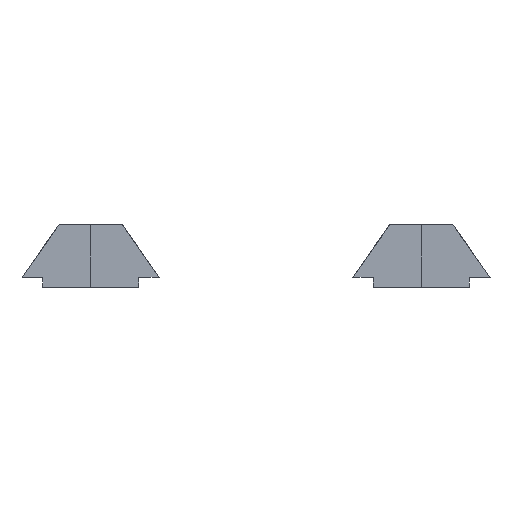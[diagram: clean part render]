
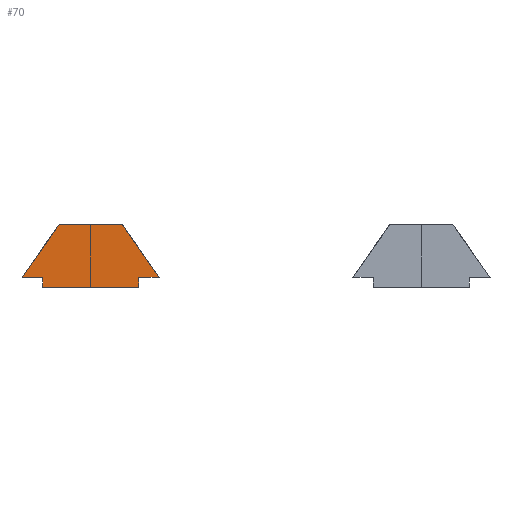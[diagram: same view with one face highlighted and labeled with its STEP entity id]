
A CAD part, left-side view. The second image highlights one B-rep face of the part: STEP entity #70.
In plain terms, the highlighted planar face has unit normal (-1, 0, 0) as drawn and (1, 0, 0) by its records, which use the part's own axes.
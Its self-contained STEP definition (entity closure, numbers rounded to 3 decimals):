
#70=ADVANCED_FACE('',(#109),#1456,.T.);
#109=FACE_OUTER_BOUND('',#149,.T.);
#149=EDGE_LOOP('',(#228,#229,#230,#231,#232,#233,#234,#235));
#228=ORIENTED_EDGE('',*,*,#963,.F.);
#229=ORIENTED_EDGE('',*,*,#970,.F.);
#230=ORIENTED_EDGE('',*,*,#975,.F.);
#231=ORIENTED_EDGE('',*,*,#978,.F.);
#232=ORIENTED_EDGE('',*,*,#981,.F.);
#233=ORIENTED_EDGE('',*,*,#984,.F.);
#234=ORIENTED_EDGE('',*,*,#989,.F.);
#235=ORIENTED_EDGE('',*,*,#991,.F.);
#423=PCURVE('',#1447,#639);
#430=PCURVE('',#1448,#646);
#436=PCURVE('',#1449,#652);
#440=PCURVE('',#1450,#656);
#444=PCURVE('',#1451,#660);
#448=PCURVE('',#1452,#664);
#454=PCURVE('',#1453,#670);
#458=PCURVE('',#1454,#674);
#468=PCURVE('',#1456,#684);
#469=PCURVE('',#1456,#685);
#470=PCURVE('',#1456,#686);
#471=PCURVE('',#1456,#687);
#472=PCURVE('',#1456,#688);
#473=PCURVE('',#1456,#689);
#474=PCURVE('',#1456,#690);
#475=PCURVE('',#1456,#691);
#639=DEFINITIONAL_REPRESENTATION('',(#1074),#2965);
#646=DEFINITIONAL_REPRESENTATION('',(#1086),#2965);
#652=DEFINITIONAL_REPRESENTATION('',(#1097),#2965);
#656=DEFINITIONAL_REPRESENTATION('',(#1104),#2965);
#660=DEFINITIONAL_REPRESENTATION('',(#1111),#2965);
#664=DEFINITIONAL_REPRESENTATION('',(#1118),#2965);
#670=DEFINITIONAL_REPRESENTATION('',(#1127),#2965);
#674=DEFINITIONAL_REPRESENTATION('',(#1133),#2965);
#684=DEFINITIONAL_REPRESENTATION('',(#1144),#2965);
#685=DEFINITIONAL_REPRESENTATION('',(#1145),#2965);
#686=DEFINITIONAL_REPRESENTATION('',(#1146),#2965);
#687=DEFINITIONAL_REPRESENTATION('',(#1147),#2965);
#688=DEFINITIONAL_REPRESENTATION('',(#1148),#2965);
#689=DEFINITIONAL_REPRESENTATION('',(#1149),#2965);
#690=DEFINITIONAL_REPRESENTATION('',(#1150),#2965);
#691=DEFINITIONAL_REPRESENTATION('',(#1151),#2965);
#855=SURFACE_CURVE('',#1073,(#423,#468),.PCURVE_S1.);
#862=SURFACE_CURVE('',#1085,(#430,#469),.PCURVE_S1.);
#867=SURFACE_CURVE('',#1096,(#436,#470),.PCURVE_S1.);
#870=SURFACE_CURVE('',#1103,(#440,#471),.PCURVE_S1.);
#873=SURFACE_CURVE('',#1110,(#444,#472),.PCURVE_S1.);
#876=SURFACE_CURVE('',#1117,(#448,#473),.PCURVE_S1.);
#881=SURFACE_CURVE('',#1126,(#454,#474),.PCURVE_S1.);
#883=SURFACE_CURVE('',#1132,(#458,#475),.PCURVE_S1.);
#963=EDGE_CURVE('',#1371,#1372,#855,.T.);
#970=EDGE_CURVE('',#1374,#1371,#862,.T.);
#975=EDGE_CURVE('',#1376,#1374,#867,.T.);
#978=EDGE_CURVE('',#1378,#1376,#870,.T.);
#981=EDGE_CURVE('',#1380,#1378,#873,.T.);
#984=EDGE_CURVE('',#1382,#1380,#876,.T.);
#989=EDGE_CURVE('',#1384,#1382,#881,.T.);
#991=EDGE_CURVE('',#1372,#1384,#883,.T.);
#1073=B_SPLINE_CURVE_WITH_KNOTS('',1,(#1701,#1702),.UNSPECIFIED.,.F.,.F.,
(2,2),(0.,3.906),.UNSPECIFIED.);
#1074=B_SPLINE_CURVE_WITH_KNOTS('',1,(#1703,#1704),.UNSPECIFIED.,.F.,.F.,
(2,2),(0.,3.906),.UNSPECIFIED.);
#1085=B_SPLINE_CURVE_WITH_KNOTS('',1,(#1741,#1742),.UNSPECIFIED.,.F.,.F.,
(2,2),(-3.819,0.),.UNSPECIFIED.);
#1086=B_SPLINE_CURVE_WITH_KNOTS('',1,(#1743,#1744),.UNSPECIFIED.,.F.,.F.,
(2,2),(-3.819,0.),.UNSPECIFIED.);
#1096=B_SPLINE_CURVE_WITH_KNOTS('',1,(#1793,#1794),.UNSPECIFIED.,.F.,.F.,
(2,2),(-7.725,-3.819),.UNSPECIFIED.);
#1097=B_SPLINE_CURVE_WITH_KNOTS('',1,(#1795,#1796),.UNSPECIFIED.,.F.,.F.,
(2,2),(-7.725,-3.819),.UNSPECIFIED.);
#1103=B_SPLINE_CURVE_WITH_KNOTS('',1,(#1807,#1808),.UNSPECIFIED.,.F.,.F.,
(2,2),(-8.975,-7.725),.UNSPECIFIED.);
#1104=B_SPLINE_CURVE_WITH_KNOTS('',1,(#1809,#1810),.UNSPECIFIED.,.F.,.F.,
(2,2),(-8.975,-7.725),.UNSPECIFIED.);
#1110=B_SPLINE_CURVE_WITH_KNOTS('',1,(#1821,#1822),.UNSPECIFIED.,.F.,.F.,
(2,2),(-9.575,-8.975),.UNSPECIFIED.);
#1111=B_SPLINE_CURVE_WITH_KNOTS('',1,(#1823,#1824),.UNSPECIFIED.,.F.,.F.,
(2,2),(-9.575,-8.975),.UNSPECIFIED.);
#1117=B_SPLINE_CURVE_WITH_KNOTS('',1,(#1835,#1836),.UNSPECIFIED.,.F.,.F.,
(2,2),(-15.375,-9.575),.UNSPECIFIED.);
#1118=B_SPLINE_CURVE_WITH_KNOTS('',1,(#1837,#1838),.UNSPECIFIED.,.F.,.F.,
(2,2),(-15.375,-9.575),.UNSPECIFIED.);
#1126=B_SPLINE_CURVE_WITH_KNOTS('',1,(#1909,#1910),.UNSPECIFIED.,.F.,.F.,
(2,2),(-15.975,-15.375),.UNSPECIFIED.);
#1127=B_SPLINE_CURVE_WITH_KNOTS('',1,(#1911,#1912),.UNSPECIFIED.,.F.,.F.,
(2,2),(-15.975,-15.375),.UNSPECIFIED.);
#1132=B_SPLINE_CURVE_WITH_KNOTS('',1,(#1921,#1922),.UNSPECIFIED.,.F.,.F.,
(2,2),(-17.225,-15.975),.UNSPECIFIED.);
#1133=B_SPLINE_CURVE_WITH_KNOTS('',1,(#1923,#1924),.UNSPECIFIED.,.F.,.F.,
(2,2),(-17.225,-15.975),.UNSPECIFIED.);
#1144=B_SPLINE_CURVE_WITH_KNOTS('',1,(#1945,#1946),.UNSPECIFIED.,.F.,.F.,
(2,2),(0.,3.906),.UNSPECIFIED.);
#1145=B_SPLINE_CURVE_WITH_KNOTS('',1,(#1947,#1948),.UNSPECIFIED.,.F.,.F.,
(2,2),(-3.819,0.),.UNSPECIFIED.);
#1146=B_SPLINE_CURVE_WITH_KNOTS('',1,(#1949,#1950),.UNSPECIFIED.,.F.,.F.,
(2,2),(-7.725,-3.819),.UNSPECIFIED.);
#1147=B_SPLINE_CURVE_WITH_KNOTS('',1,(#1951,#1952),.UNSPECIFIED.,.F.,.F.,
(2,2),(-8.975,-7.725),.UNSPECIFIED.);
#1148=B_SPLINE_CURVE_WITH_KNOTS('',1,(#1953,#1954),.UNSPECIFIED.,.F.,.F.,
(2,2),(-9.575,-8.975),.UNSPECIFIED.);
#1149=B_SPLINE_CURVE_WITH_KNOTS('',1,(#1955,#1956),.UNSPECIFIED.,.F.,.F.,
(2,2),(-15.375,-9.575),.UNSPECIFIED.);
#1150=B_SPLINE_CURVE_WITH_KNOTS('',1,(#1957,#1958),.UNSPECIFIED.,.F.,.F.,
(2,2),(-15.975,-15.375),.UNSPECIFIED.);
#1151=B_SPLINE_CURVE_WITH_KNOTS('',1,(#1959,#1960),.UNSPECIFIED.,.F.,.F.,
(2,2),(-17.225,-15.975),.UNSPECIFIED.);
#1371=VERTEX_POINT('',#1641);
#1372=VERTEX_POINT('',#1642);
#1374=VERTEX_POINT('',#1644);
#1376=VERTEX_POINT('',#1646);
#1378=VERTEX_POINT('',#1648);
#1380=VERTEX_POINT('',#1650);
#1382=VERTEX_POINT('',#1652);
#1384=VERTEX_POINT('',#1654);
#1447=PLANE('',#1518);
#1448=PLANE('',#1519);
#1449=PLANE('',#1520);
#1450=PLANE('',#1521);
#1451=PLANE('',#1522);
#1452=PLANE('',#1523);
#1453=PLANE('',#1524);
#1454=PLANE('',#1525);
#1456=PLANE('',#1527);
#1518=AXIS2_PLACEMENT_3D('',#1593,#1554,$);
#1519=AXIS2_PLACEMENT_3D('',#1594,#1555,$);
#1520=AXIS2_PLACEMENT_3D('',#1595,#1556,$);
#1521=AXIS2_PLACEMENT_3D('',#1596,#1557,$);
#1522=AXIS2_PLACEMENT_3D('',#1597,#1558,$);
#1523=AXIS2_PLACEMENT_3D('',#1598,#1559,$);
#1524=AXIS2_PLACEMENT_3D('',#1599,#1560,$);
#1525=AXIS2_PLACEMENT_3D('',#1600,#1561,$);
#1527=AXIS2_PLACEMENT_3D('',#1638,#1563,$);
#1554=DIRECTION('',(0.,-0.819,-0.574));
#1555=DIRECTION('',(0.,0.,-1.));
#1556=DIRECTION('',(0.,0.819,-0.574));
#1557=DIRECTION('',(0.,0.,1.));
#1558=DIRECTION('',(0.,1.,0.));
#1559=DIRECTION('',(0.,0.,1.));
#1560=DIRECTION('',(0.,-1.,0.));
#1561=DIRECTION('',(0.,0.,1.));
#1563=DIRECTION('',(1.,0.,0.));
#1593=CARTESIAN_POINT('',(-704.,69.15,-14.));
#1594=CARTESIAN_POINT('',(-704.,66.909,-10.8));
#1595=CARTESIAN_POINT('',(-704.,63.091,-10.8));
#1596=CARTESIAN_POINT('',(-704.,60.85,-14.));
#1597=CARTESIAN_POINT('',(-704.,62.1,-14.));
#1598=CARTESIAN_POINT('',(-704.,62.1,-14.6));
#1599=CARTESIAN_POINT('',(-704.,67.9,-14.6));
#1600=CARTESIAN_POINT('',(-704.,67.9,-14.));
#1638=CARTESIAN_POINT('',(-721.,59.813,-10.325));
#1641=CARTESIAN_POINT('',(-721.,66.909,-10.8));
#1642=CARTESIAN_POINT('',(-721.,69.15,-14.));
#1644=CARTESIAN_POINT('',(-721.,63.091,-10.8));
#1646=CARTESIAN_POINT('',(-721.,60.85,-14.));
#1648=CARTESIAN_POINT('',(-721.,62.1,-14.));
#1650=CARTESIAN_POINT('',(-721.,62.1,-14.6));
#1652=CARTESIAN_POINT('',(-721.,67.9,-14.6));
#1654=CARTESIAN_POINT('',(-721.,67.9,-14.));
#1701=CARTESIAN_POINT('',(-721.,66.909,-10.8));
#1702=CARTESIAN_POINT('',(-721.,69.15,-14.));
#1703=CARTESIAN_POINT('',(0.,17.));
#1704=CARTESIAN_POINT('',(-3.906,17.));
#1741=CARTESIAN_POINT('',(-721.,63.091,-10.8));
#1742=CARTESIAN_POINT('',(-721.,66.909,-10.8));
#1743=CARTESIAN_POINT('',(3.819,17.));
#1744=CARTESIAN_POINT('',(0.,17.));
#1793=CARTESIAN_POINT('',(-721.,60.85,-14.));
#1794=CARTESIAN_POINT('',(-721.,63.091,-10.8));
#1795=CARTESIAN_POINT('',(7.725,17.));
#1796=CARTESIAN_POINT('',(3.819,17.));
#1807=CARTESIAN_POINT('',(-721.,62.1,-14.));
#1808=CARTESIAN_POINT('',(-721.,60.85,-14.));
#1809=CARTESIAN_POINT('',(8.975,17.));
#1810=CARTESIAN_POINT('',(7.725,17.));
#1821=CARTESIAN_POINT('',(-721.,62.1,-14.6));
#1822=CARTESIAN_POINT('',(-721.,62.1,-14.));
#1823=CARTESIAN_POINT('',(9.575,17.));
#1824=CARTESIAN_POINT('',(8.975,17.));
#1835=CARTESIAN_POINT('',(-721.,67.9,-14.6));
#1836=CARTESIAN_POINT('',(-721.,62.1,-14.6));
#1837=CARTESIAN_POINT('',(15.375,17.));
#1838=CARTESIAN_POINT('',(9.575,17.));
#1909=CARTESIAN_POINT('',(-721.,67.9,-14.));
#1910=CARTESIAN_POINT('',(-721.,67.9,-14.6));
#1911=CARTESIAN_POINT('',(15.975,17.));
#1912=CARTESIAN_POINT('',(15.375,17.));
#1921=CARTESIAN_POINT('',(-721.,69.15,-14.));
#1922=CARTESIAN_POINT('',(-721.,67.9,-14.));
#1923=CARTESIAN_POINT('',(17.225,17.));
#1924=CARTESIAN_POINT('',(15.975,17.));
#1945=CARTESIAN_POINT('',(-3.2,-2.241));
#1946=CARTESIAN_POINT('',(0.,0.));
#1947=CARTESIAN_POINT('',(-3.2,-6.059));
#1948=CARTESIAN_POINT('',(-3.2,-2.241));
#1949=CARTESIAN_POINT('',(0.,-8.3));
#1950=CARTESIAN_POINT('',(-3.2,-6.059));
#1951=CARTESIAN_POINT('',(0.,-7.05));
#1952=CARTESIAN_POINT('',(0.,-8.3));
#1953=CARTESIAN_POINT('',(0.6,-7.05));
#1954=CARTESIAN_POINT('',(0.,-7.05));
#1955=CARTESIAN_POINT('',(0.6,-1.25));
#1956=CARTESIAN_POINT('',(0.6,-7.05));
#1957=CARTESIAN_POINT('',(0.,-1.25));
#1958=CARTESIAN_POINT('',(0.6,-1.25));
#1959=CARTESIAN_POINT('',(0.,0.));
#1960=CARTESIAN_POINT('',(0.,-1.25));
#2965=(
GEOMETRIC_REPRESENTATION_CONTEXT(2)
PARAMETRIC_REPRESENTATION_CONTEXT()
REPRESENTATION_CONTEXT('pspace','')
);
